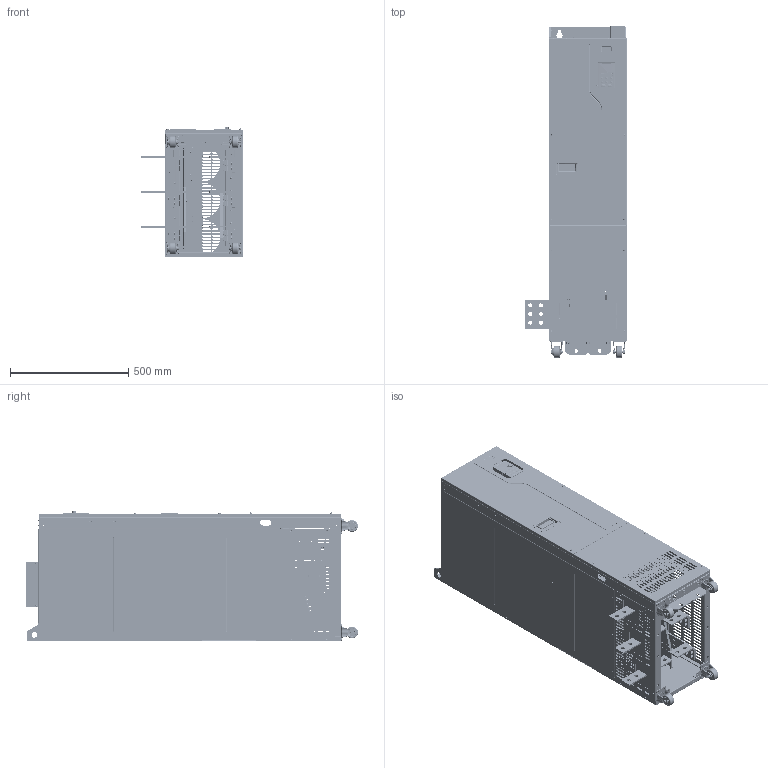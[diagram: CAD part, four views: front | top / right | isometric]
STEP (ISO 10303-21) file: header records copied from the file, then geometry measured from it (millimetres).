
FILE_DESCRIPTION((''),'2;1');
FILE_NAME('GD290-500P-4_ASM','2025-04-10T13:27:31',('Administrator'),(''),'CREO PARAMETRIC BY PTC INC, 2019080','CREO PARAMETRIC BY PTC INC, 2019080','');
FILE_SCHEMA(('CONFIG_CONTROL_DESIGN','SHAPE_APPEARANCE_LAYERS_GROUPS'));
Products named in the file (177): 80387016_2_1; S-M4-ZC_1_1; S-M6-ZC_1_1; TPR-4-12-SL_1_1; 80387016_ASM_1_ASM_1_ASM; 80387044_1_1; 80386995_1_1; GB12617_2_4X10_ZC_1_1; GB819_1_M4X8_1_1; 61210541_ASM_1_ASM_1_ASM; 80387017_1_1; BSO-M4-10-ZC_1_1; 80387017_ASM_1_ASM_1_ASM; 80387017SY_1_1; 80387018_1_1; GB12618_2_4X10_ZC_1_1; 80387018_ASM_1_ASM_1_ASM; 80387012_1_1; 80387012_ASM_1_ASM_1_ASM; 80387011_1_1; 80387011_ASM_1_ASM_1_ASM; 80387019_1_1; 80387019_ASM_1_ASM_1_ASM; 80387020_1_1; NZ-M10-ZC_1_1; 80387020_ASM_1_ASM_1_ASM; 80386996_1_1; 80386997_1_1; WG-02-0003_1_1; GB9074_4_M4X12_1_1; GB9074_4_M4X10_1_1; 61210543_ASM_1_ASM_1_ASM; 80387021_1_1; 80387021_ASM_1_ASM_1_ASM; 80387022_1_1; 80387022_ASM_1_ASM_1_ASM; 78430392_1_1; 78470483_1_1; 80386998_1_1; 80387009_1_1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
Assembly tree (955 placements, depth 8):
  GD290-500P-4_ASM
    00_GD270-500KW-4_ASM_2_ASM_1_ASM
      40801325_ASM_2_ASM_1_ASM
        61061693_ASM_2_ASM_1_ASM
          61210541_ASM_1_ASM_1_ASM
            80387016_ASM_1_ASM_1_ASM
              80387016_2_1
              S-M4-ZC_1_1  x14
              S-M6-ZC_1_1  x7
              TPR-4-12-SL_1_1  x2
            80387044_1_1
            80386995_1_1  x2
            GB12617_2_4X10_ZC_1_1  x7
            GB819_1_M4X8_1_1  x4
          61210543_ASM_1_ASM_1_ASM
            80387017_ASM_1_ASM_1_ASM
              80387017_1_1
              S-M4-ZC_1_1  x16
              GB12617_2_4X10_ZC_1_1  x16
              BSO-M4-10-ZC_1_1  x8
              S-M6-ZC_1_1  x5
            80387017SY_1_1
            80387018_ASM_1_ASM_1_ASM
              80387018_1_1
              GB12618_2_4X10_ZC_1_1  x4
              BSO-M4-10-ZC_1_1  x8
            80387012_ASM_1_ASM_1_ASM
              80387012_1_1
              GB12618_2_4X10_ZC_1_1  x4
              S-M4-ZC_1_1  x4
            80387011_ASM_1_ASM_1_ASM  x5
              80387011_1_1
              S-M4-ZC_1_1
            80387019_ASM_1_ASM_1_ASM  x4
              80387019_1_1
              S-M4-ZC_1_1
            80387020_ASM_1_ASM_1_ASM  x2
              80387020_1_1
              NZ-M10-ZC_1_1
            80386996_1_1
            80386997_1_1
            WG-02-0003_1_1
            GB12618_2_4X10_ZC_1_1  x64
            GB819_1_M4X8_1_1  x4
            GB9074_4_M4X12_1_1  x2
            GB9074_4_M4X10_1_1  x12
          61210547_ASM_1_ASM_1_ASM
            80387021_ASM_1_ASM_1_ASM
              80387021_1_1
              S-M6-ZC_1_1  x9
              S-M4-ZC_1_1  x2
            80387022_ASM_1_ASM_1_ASM
              80387022_1_1
              S-M4-ZC_1_1  x3
            78430392_1_1  x2
            78470483_1_1
            80386998_1_1
            80387009_ASM_1_ASM_1_ASM  x6
              80387009_1_1
              S-M6-ZC_1_1
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Bounding box: 430.75 x 1403 x 552.1 mm (x, y, z)
Surface area: 10033320.8 mm2
Topology: 2 solids, 44544 shells, 44613 faces, 229473 edges, 229056 vertices
Faces by surface type: plane 28160, cylinder 9812, cone 3527, torus 1243, sphere 958, extrusion 541, bspline 372
Entity records: 777454 total; most frequent: CARTESIAN_POINT 268667, DIRECTION 93680, ORIENTED_EDGE 67226, EDGE_CURVE 67149, VERTEX_POINT 67118, VECTOR 42548, LINE 42007, AXIS2_PLACEMENT_3D 25566
